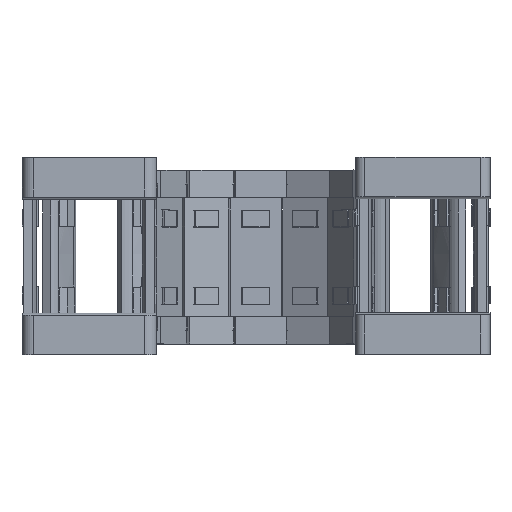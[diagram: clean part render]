
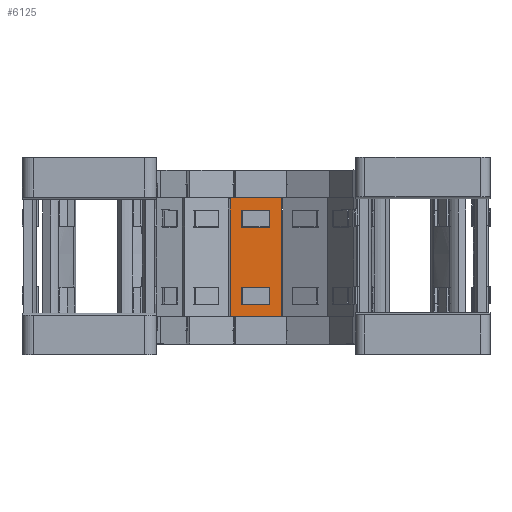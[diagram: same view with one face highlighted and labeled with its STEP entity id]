
A CAD part, top view. The second image highlights one B-rep face of the part: STEP entity #6125.
In plain terms, the highlighted planar face has unit normal (0.026, 0, 1).
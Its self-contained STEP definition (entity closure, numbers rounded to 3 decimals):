
#6125=ADVANCED_FACE('',(#25002,#25003,#25004),#8900,.F.);
#8900=PLANE('',#69244);
#13997=LINE('',#100575,#20853);
#14051=LINE('',#100734,#20907);
#14116=LINE('',#101094,#20972);
#14117=LINE('',#101096,#20973);
#14121=LINE('',#101104,#20977);
#14214=LINE('',#101405,#21070);
#14248=LINE('',#101515,#21104);
#14297=LINE('',#101839,#21153);
#14301=LINE('',#101851,#21157);
#14312=LINE('',#101876,#21168);
#14316=LINE('',#101883,#21172);
#14318=LINE('',#101887,#21174);
#14323=LINE('',#101917,#21179);
#14327=LINE('',#101927,#21183);
#14332=LINE('',#101959,#21188);
#14333=LINE('',#101960,#21189);
#14334=LINE('',#101961,#21190);
#14335=LINE('',#101963,#21191);
#20853=VECTOR('',#79300,1.);
#20907=VECTOR('',#79390,1.);
#20972=VECTOR('',#79607,1.);
#20973=VECTOR('',#79610,1.);
#20977=VECTOR('',#79616,1.);
#21070=VECTOR('',#79825,1.);
#21104=VECTOR('',#79883,1.);
#21153=VECTOR('',#80066,1.);
#21157=VECTOR('',#80076,1.);
#21168=VECTOR('',#80097,1.);
#21172=VECTOR('',#80103,1.);
#21174=VECTOR('',#80107,1.);
#21179=VECTOR('',#80120,1.);
#21183=VECTOR('',#80130,1.);
#21188=VECTOR('',#80149,1.);
#21189=VECTOR('',#80150,1.);
#21190=VECTOR('',#80151,1.);
#21191=VECTOR('',#80152,1.);
#25002=FACE_BOUND('',#26769,.T.);
#25003=FACE_BOUND('',#26770,.T.);
#25004=FACE_BOUND('',#26771,.T.);
#26769=EDGE_LOOP('',(#37878,#37879,#37880,#37881,#37882,#37883));
#26770=EDGE_LOOP('',(#37884,#37885,#37886,#37887,#37888,#37889));
#26771=EDGE_LOOP('',(#37890,#37891,#37892,#37893,#37894,#37895));
#37878=ORIENTED_EDGE('',*,*,#59926,.T.);
#37879=ORIENTED_EDGE('',*,*,#59874,.F.);
#37880=ORIENTED_EDGE('',*,*,#59741,.F.);
#37881=ORIENTED_EDGE('',*,*,#59898,.F.);
#37882=ORIENTED_EDGE('',*,*,#59431,.F.);
#37883=ORIENTED_EDGE('',*,*,#59608,.F.);
#37884=ORIENTED_EDGE('',*,*,#59927,.F.);
#37885=ORIENTED_EDGE('',*,*,#59908,.T.);
#37886=ORIENTED_EDGE('',*,*,#59896,.T.);
#37887=ORIENTED_EDGE('',*,*,#59880,.F.);
#37888=ORIENTED_EDGE('',*,*,#59783,.F.);
#37889=ORIENTED_EDGE('',*,*,#59913,.F.);
#37890=ORIENTED_EDGE('',*,*,#59609,.F.);
#37891=ORIENTED_EDGE('',*,*,#59892,.T.);
#37892=ORIENTED_EDGE('',*,*,#59928,.T.);
#37893=ORIENTED_EDGE('',*,*,#59929,.F.);
#37894=ORIENTED_EDGE('',*,*,#59613,.F.);
#37895=ORIENTED_EDGE('',*,*,#59497,.F.);
#51365=VERTEX_POINT('',#100574);
#51366=VERTEX_POINT('',#100576);
#51392=VERTEX_POINT('',#100658);
#51418=VERTEX_POINT('',#100721);
#51483=VERTEX_POINT('',#101093);
#51484=VERTEX_POINT('',#101097);
#51487=VERTEX_POINT('',#101105);
#51574=VERTEX_POINT('',#101404);
#51575=VERTEX_POINT('',#101406);
#51595=VERTEX_POINT('',#101477);
#51609=VERTEX_POINT('',#101507);
#51661=VERTEX_POINT('',#101840);
#51666=VERTEX_POINT('',#101852);
#51674=VERTEX_POINT('',#101875);
#51677=VERTEX_POINT('',#101884);
#51683=VERTEX_POINT('',#101918);
#51685=VERTEX_POINT('',#101926);
#51690=VERTEX_POINT('',#101962);
#59431=EDGE_CURVE('',#51365,#51366,#13997,.T.);
#59497=EDGE_CURVE('',#51418,#51392,#14051,.T.);
#59608=EDGE_CURVE('',#51483,#51365,#14116,.T.);
#59609=EDGE_CURVE('',#51484,#51418,#14117,.T.);
#59613=EDGE_CURVE('',#51392,#51487,#14121,.T.);
#59741=EDGE_CURVE('',#51574,#51575,#14214,.T.);
#59783=EDGE_CURVE('',#51595,#51609,#14248,.T.);
#59874=EDGE_CURVE('',#51575,#51661,#14297,.T.);
#59880=EDGE_CURVE('',#51609,#51666,#14301,.T.);
#59892=EDGE_CURVE('',#51484,#51674,#14312,.T.);
#59896=EDGE_CURVE('',#51677,#51666,#14316,.T.);
#59898=EDGE_CURVE('',#51366,#51574,#14318,.T.);
#59908=EDGE_CURVE('',#51683,#51677,#14323,.T.);
#59913=EDGE_CURVE('',#51685,#51595,#14327,.T.);
#59926=EDGE_CURVE('',#51483,#51661,#14332,.T.);
#59927=EDGE_CURVE('',#51683,#51685,#14333,.T.);
#59928=EDGE_CURVE('',#51674,#51690,#14334,.T.);
#59929=EDGE_CURVE('',#51487,#51690,#14335,.T.);
#69244=AXIS2_PLACEMENT_3D('',#101964,#80153,#80154);
#79300=DIRECTION('',(1.,0.,-0.026));
#79390=DIRECTION('',(-1.,0.,0.026));
#79607=DIRECTION('',(1.,0.,-0.026));
#79610=DIRECTION('',(-1.,0.,0.026));
#79616=DIRECTION('',(-1.,0.,0.026));
#79825=DIRECTION('',(-1.,0.,0.026));
#79883=DIRECTION('',(1.,0.,-0.026));
#80066=DIRECTION('',(-1.,0.,0.026));
#80076=DIRECTION('',(1.,0.,-0.026));
#80097=DIRECTION('',(0.,-1.,0.));
#80103=DIRECTION('',(0.,-1.,0.));
#80107=DIRECTION('',(0.,-1.,0.));
#80120=DIRECTION('',(1.,0.,-0.026));
#80130=DIRECTION('',(1.,0.,-0.026));
#80149=DIRECTION('',(0.,-1.,0.));
#80150=DIRECTION('',(0.,-1.,0.));
#80151=DIRECTION('',(-1.,0.,0.026));
#80152=DIRECTION('',(0.,-1.,0.));
#80153=DIRECTION('',(-0.026,0.,-1.));
#80154=DIRECTION('',(1.,0.,-0.026));
#100574=CARTESIAN_POINT('',(379.153,34.434,750.093));
#100575=CARTESIAN_POINT('',(378.817,34.434,750.102));
#100576=CARTESIAN_POINT('',(389.214,34.434,749.83));
#100658=CARTESIAN_POINT('',(380.87,31.822,750.048));
#100721=CARTESIAN_POINT('',(386.562,31.822,749.899));
#100734=CARTESIAN_POINT('',(386.736,31.822,749.895));
#101093=CARTESIAN_POINT('',(378.217,34.434,750.118));
#101094=CARTESIAN_POINT('',(378.817,34.434,750.102));
#101096=CARTESIAN_POINT('',(386.736,31.822,749.895));
#101097=CARTESIAN_POINT('',(386.736,31.822,749.895));
#101104=CARTESIAN_POINT('',(386.736,31.822,749.895));
#101105=CARTESIAN_POINT('',(380.695,31.822,750.053));
#101404=CARTESIAN_POINT('',(389.214,8.934,749.83));
#101405=CARTESIAN_POINT('',(378.817,8.934,750.102));
#101406=CARTESIAN_POINT('',(379.153,8.934,750.093));
#101477=CARTESIAN_POINT('',(380.87,11.545,750.048));
#101507=CARTESIAN_POINT('',(386.562,11.545,749.899));
#101515=CARTESIAN_POINT('',(386.736,11.545,749.895));
#101839=CARTESIAN_POINT('',(378.817,8.934,750.102));
#101840=CARTESIAN_POINT('',(378.217,8.934,750.118));
#101851=CARTESIAN_POINT('',(386.736,11.545,749.895));
#101852=CARTESIAN_POINT('',(386.736,11.545,749.895));
#101875=CARTESIAN_POINT('',(386.736,28.15,749.895));
#101876=CARTESIAN_POINT('',(386.736,46.919,749.895));
#101883=CARTESIAN_POINT('',(386.736,-3.552,749.895));
#101884=CARTESIAN_POINT('',(386.736,15.218,749.895));
#101887=CARTESIAN_POINT('',(389.214,-33.552,749.83));
#101917=CARTESIAN_POINT('',(386.736,15.218,749.895));
#101918=CARTESIAN_POINT('',(380.695,15.218,750.053));
#101926=CARTESIAN_POINT('',(380.695,11.545,750.053));
#101927=CARTESIAN_POINT('',(386.736,11.545,749.895));
#101959=CARTESIAN_POINT('',(378.217,-33.552,750.118));
#101960=CARTESIAN_POINT('',(380.695,-3.552,750.053));
#101961=CARTESIAN_POINT('',(386.736,28.15,749.895));
#101962=CARTESIAN_POINT('',(380.695,28.15,750.053));
#101963=CARTESIAN_POINT('',(380.695,46.919,750.053));
#101964=CARTESIAN_POINT('',(376.74,-33.552,750.156));
